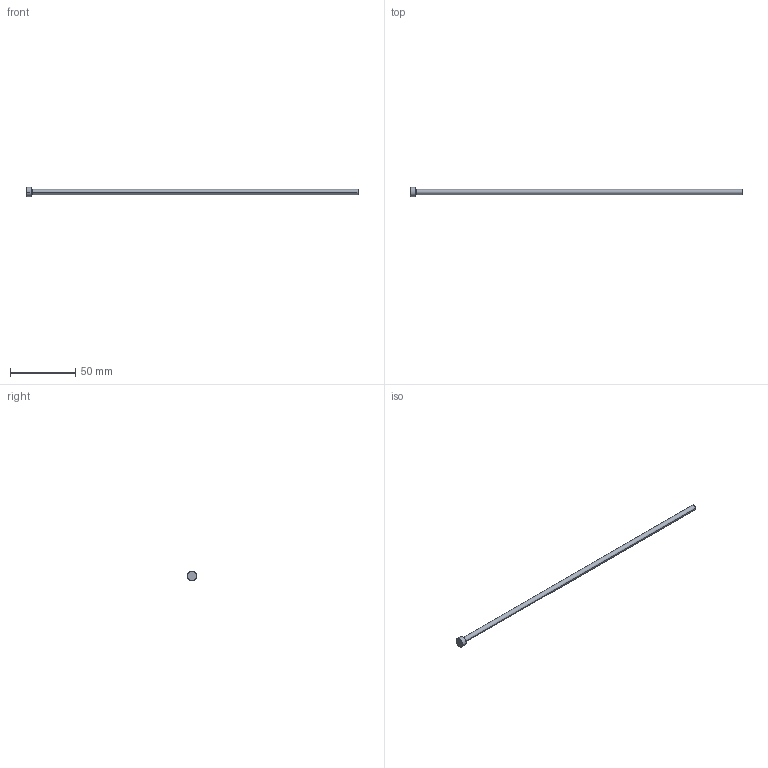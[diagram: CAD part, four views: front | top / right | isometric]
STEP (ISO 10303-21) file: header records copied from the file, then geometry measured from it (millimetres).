
FILE_DESCRIPTION (( 'STEP AP214' ), '1' );
FILE_NAME ('P11-10.STEP', '2020-03-11T17:44:15', ( '' ), ( '' ), 'SwSTEP 2.0', 'SolidWorks 2018', '' );
FILE_SCHEMA (( 'AUTOMOTIVE_DESIGN' ));
Length unit declared in the file: inch
Products named in the file (1): P11-10
Bounding box: 254 x 7.14 x 7.14 mm (x, y, z)
Volume: 3241.7 mm3; surface area: 3274.2 mm2
Topology: 1 solids, 1 shells, 13 faces, 24 edges, 14 vertices
Faces by surface type: cone 4, cylinder 4, plane 3, torus 2
Entity records: 366 total; most frequent: DIRECTION 68, CARTESIAN_POINT 52, ORIENTED_EDGE 48, AXIS2_PLACEMENT_3D 30, EDGE_CURVE 24, CIRCLE 16, VERTEX_POINT 14, EDGE_LOOP 14
